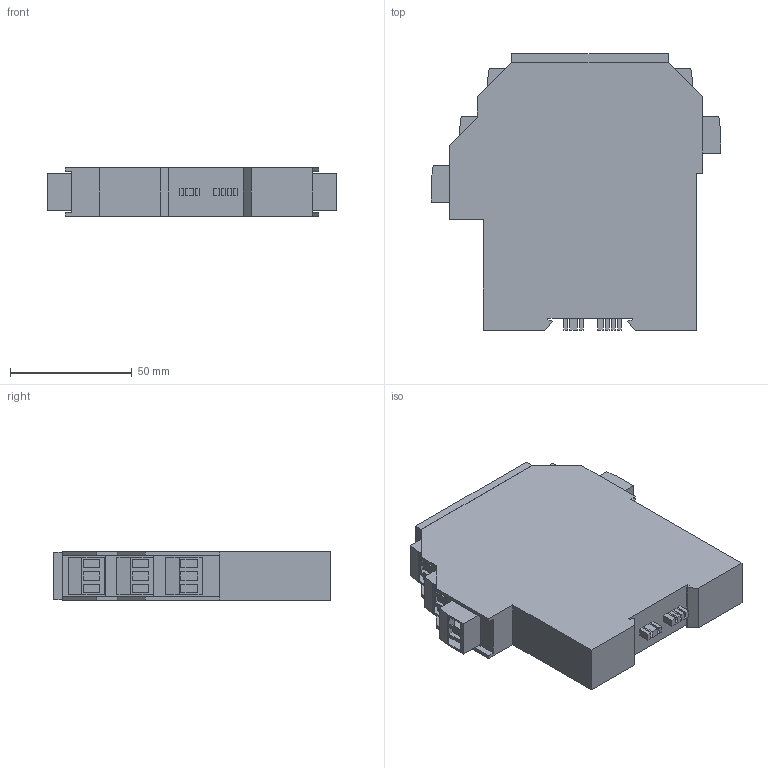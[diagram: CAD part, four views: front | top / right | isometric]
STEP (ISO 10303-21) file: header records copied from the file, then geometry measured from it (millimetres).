
FILE_DESCRIPTION((''),'2;1');
FILE_NAME('10001131760','2014-07-24T',('mguelmi'),('Rockwell Automation'),'PRO/ENGINEER BY PARAMETRIC TECHNOLOGY CORPORATION, 2012480','PRO/ENGINEER BY PARAMETRIC TECHNOLOGY CORPORATION, 2012480','');
FILE_SCHEMA(('CONFIG_CONTROL_DESIGN'));
Length unit declared in the file: millimetre
Products named in the file (1): 10001131760
Bounding box: 118.8 x 113.6 x 20 mm (x, y, z)
Surface area: 32723.9 mm2 (no closed solid volume)
Topology: 0 solids, 34 shells, 132 faces, 501 edges, 396 vertices
Faces by surface type: plane 132
Entity records: 5285 total; most frequent: CARTESIAN_POINT 1029, DIRECTION 843, ORIENTED_EDGE 724, EDGE_CURVE 501, VECTOR 423, LINE 423, VERTEX_POINT 396, AXIS2_PLACEMENT_3D 210
